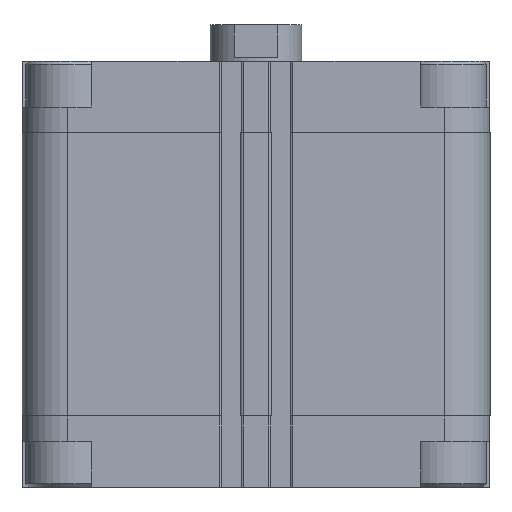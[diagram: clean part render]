
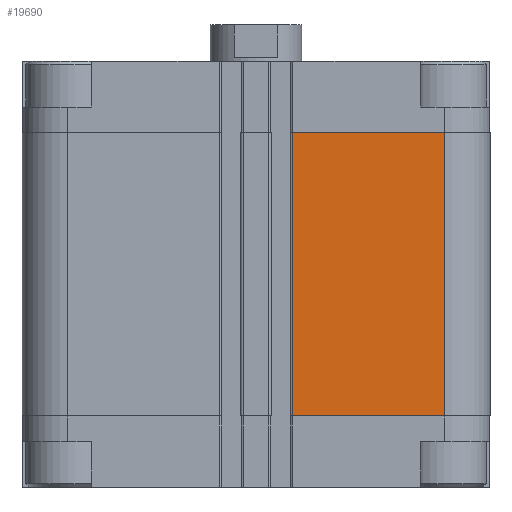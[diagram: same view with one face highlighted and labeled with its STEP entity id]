
A CAD part, front view. The second image highlights one B-rep face of the part: STEP entity #19690.
In plain terms, the highlighted planar face has unit normal (0, -1, 0).
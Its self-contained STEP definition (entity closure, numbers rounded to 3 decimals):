
#913 = CARTESIAN_POINT ( 'NONE',  ( 9.95, -64., -97. ) ) ;
#1796 = EDGE_CURVE ( 'NONE', #19686, #19525, #14563, .T. ) ;
#2740 = VECTOR ( 'NONE', #8819, 1000. ) ;
#3936 = FACE_OUTER_BOUND ( 'NONE', #6730, .T. ) ;
#5769 = LINE ( 'NONE', #20529, #15177 ) ;
#5942 = DIRECTION ( 'NONE',  ( 1., 0., 0. ) ) ;
#6007 = EDGE_CURVE ( 'NONE', #7083, #19686, #5769, .T. ) ;
#6352 = CARTESIAN_POINT ( 'NONE',  ( 9.95, -64., -19.5 ) ) ;
#6730 = EDGE_LOOP ( 'NONE', ( #19246, #8099, #17910, #9491 ) ) ;
#7037 = AXIS2_PLACEMENT_3D ( 'NONE', #11840, #18061, #19958 ) ;
#7083 = VERTEX_POINT ( 'NONE', #913 ) ;
#7556 = DIRECTION ( 'NONE',  ( 0., 0., 1. ) ) ;
#7739 = LINE ( 'NONE', #12498, #2740 ) ;
#8099 = ORIENTED_EDGE ( 'NONE', *, *, #6007, .F. ) ;
#8450 = PLANE ( 'NONE',  #7037 ) ;
#8819 = DIRECTION ( 'NONE',  ( 0., 0., 1. ) ) ;
#9205 = VECTOR ( 'NONE', #5942, 1000. ) ;
#9491 = ORIENTED_EDGE ( 'NONE', *, *, #12433, .T. ) ;
#9711 = DIRECTION ( 'NONE',  ( 1., 0., 0. ) ) ;
#11737 = CARTESIAN_POINT ( 'NONE',  ( 9.95, -64., -19.5 ) ) ;
#11840 = CARTESIAN_POINT ( 'NONE',  ( 9.95, -64., -97. ) ) ;
#12433 = EDGE_CURVE ( 'NONE', #18446, #19525, #7739, .T. ) ;
#12498 = CARTESIAN_POINT ( 'NONE',  ( 51.5, -64., -97. ) ) ;
#14563 = LINE ( 'NONE', #6352, #14930 ) ;
#14923 = CARTESIAN_POINT ( 'NONE',  ( 51.5, -64., -97. ) ) ;
#14930 = VECTOR ( 'NONE', #9711, 1000. ) ;
#15177 = VECTOR ( 'NONE', #7556, 1000. ) ;
#15428 = LINE ( 'NONE', #20385, #9205 ) ;
#15572 = EDGE_CURVE ( 'NONE', #7083, #18446, #15428, .T. ) ;
#16400 = CARTESIAN_POINT ( 'NONE',  ( 51.5, -64., -19.5 ) ) ;
#17910 = ORIENTED_EDGE ( 'NONE', *, *, #15572, .T. ) ;
#18061 = DIRECTION ( 'NONE',  ( 0., -1., 0. ) ) ;
#18446 = VERTEX_POINT ( 'NONE', #14923 ) ;
#19246 = ORIENTED_EDGE ( 'NONE', *, *, #1796, .F. ) ;
#19525 = VERTEX_POINT ( 'NONE', #16400 ) ;
#19686 = VERTEX_POINT ( 'NONE', #11737 ) ;
#19690 = ADVANCED_FACE ( 'NONE', ( #3936 ), #8450, .T. ) ;
#19958 = DIRECTION ( 'NONE',  ( -1., 0., 0. ) ) ;
#20385 = CARTESIAN_POINT ( 'NONE',  ( 9.95, -64., -97. ) ) ;
#20529 = CARTESIAN_POINT ( 'NONE',  ( 9.95, -64., -97. ) ) ;
